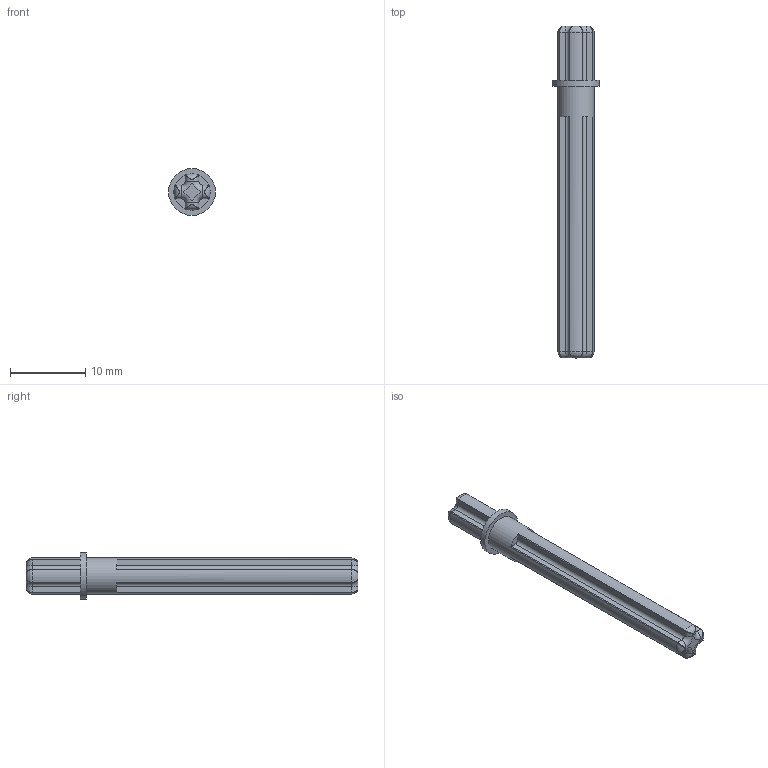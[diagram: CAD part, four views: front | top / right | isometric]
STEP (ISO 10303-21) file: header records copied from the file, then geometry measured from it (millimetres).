
FILE_DESCRIPTION(/* description */ ('Unknown'),/* implementation_level */ '2;1');
FILE_NAME(/* name */ 'Gray_4508553_JCA',/* time_stamp */ '2025-07-21T23:59:13+02:00',/* author */ ('Unknown'),/* organization */ ('Unknown'),/* preprocessor_version */ 'ST-DEVELOPER v19.4',/* originating_system */ 'Solid Edge',/* authorisation */ 'Unknown');
FILE_SCHEMA (('AUTOMOTIVE_DESIGN {1 0 10303 214 3 1 1}'));
Length unit declared in the file: millimetre
Products named in the file (1): Gray_4508553_JCA
Bounding box: 6.2 x 44 x 6.2 mm (x, y, z)
Volume: 634.4 mm3; surface area: 789.7 mm2
Topology: 1 solids, 1 shells, 102 faces, 246 edges, 132 vertices
Faces by surface type: cylinder 46, plane 24, torus 16, bspline 16
Full cylindrical faces by diameter (mm): 4.8 x1, 6.2 x1
Entity records: 3036 total; most frequent: CARTESIAN_POINT 813, DIRECTION 468, ORIENTED_EDGE 454, EDGE_CURVE 227, AXIS2_PLACEMENT_3D 186, VERTEX_POINT 131, EDGE_LOOP 106, FACE_BOUND 106
